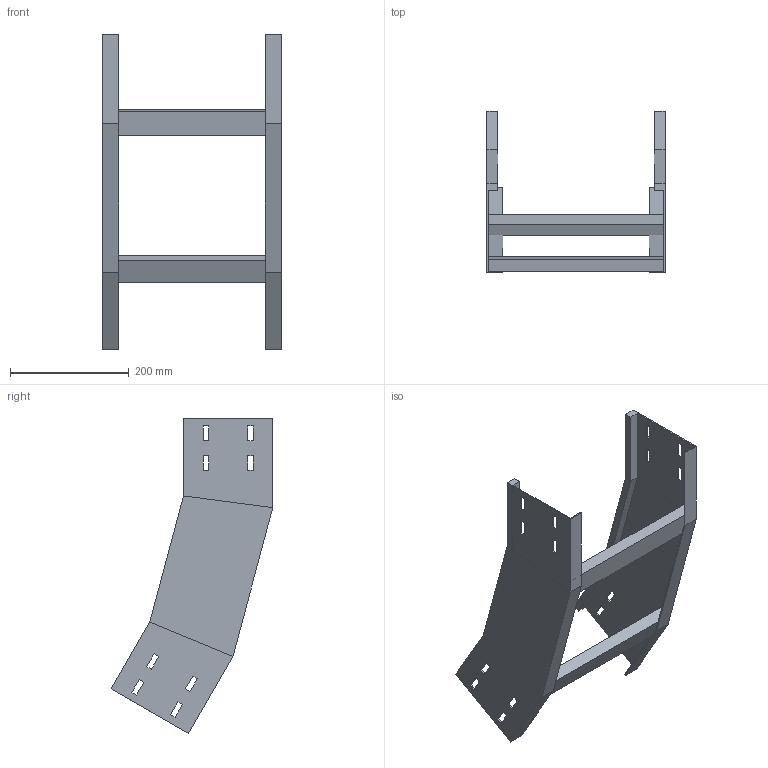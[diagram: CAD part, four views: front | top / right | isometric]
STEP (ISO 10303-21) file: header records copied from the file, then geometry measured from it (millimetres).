
FILE_DESCRIPTION (( 'STEP AP214' ), '1' );
FILE_NAME ('32J5F300.step', '2025-02-21T16:25:42', ( '' ), ( '' ), 'SwSTEP 2.0', 'SolidWorks 2023', '' );
FILE_SCHEMA (( 'AUTOMOTIVE_DESIGN' ));
Length unit declared in the file: millimetre
Products named in the file (3): TRAVERSINO_300; 32J5F300; LONGH.SALITA_30°_H150_R500
Assembly tree (4 placements, depth 2):
  32J5F300
    LONGH.SALITA_30°_H150_R500  x2
    TRAVERSINO_300  x2
Bounding box: 300 x 271.94 x 530.08 mm (x, y, z)
Volume: 1025406.5 mm3; surface area: 474644.7 mm2
Topology: 4 solids, 4 shells, 128 faces, 328 edges, 208 vertices
Faces by surface type: plane 128
Entity records: 2016 total; most frequent: CARTESIAN_POINT 339, ORIENTED_EDGE 328, DIRECTION 306, VECTOR 164, EDGE_CURVE 164, LINE 164, VERTEX_POINT 104, EDGE_LOOP 80
